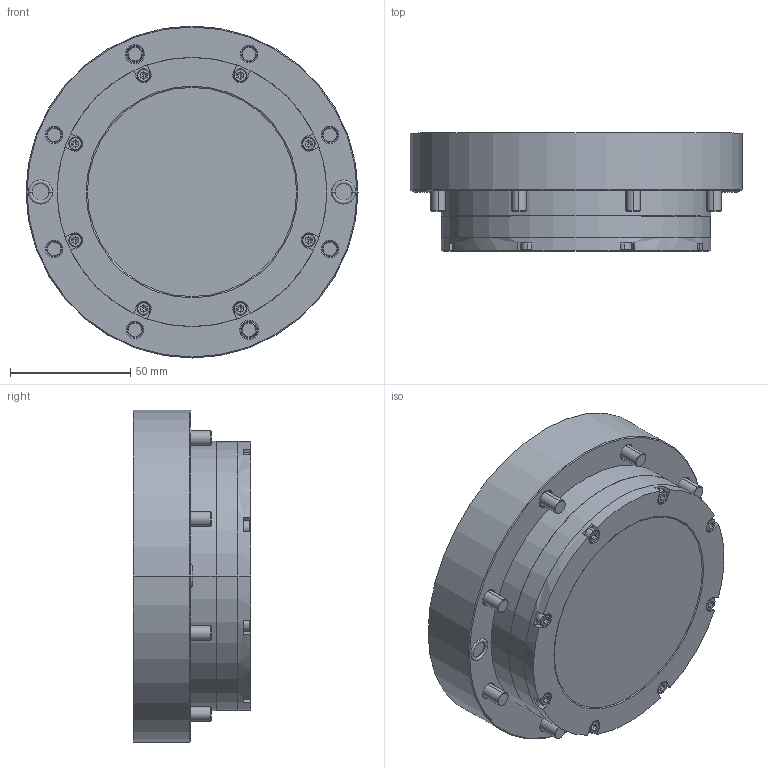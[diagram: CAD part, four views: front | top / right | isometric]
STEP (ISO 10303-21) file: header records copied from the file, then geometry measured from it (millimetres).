
FILE_DESCRIPTION((''),'2;1');
FILE_NAME('SIMP_ZERO_PNT_M138_ASM','2023-05-07T13:09:20',('Design 2'),(''),'CREO PARAMETRIC BY PTC INC, 2020053','CREO PARAMETRIC BY PTC INC, 2020053','');
FILE_SCHEMA(('CONFIG_CONTROL_DESIGN'));
Length unit declared in the file: millimetre
Products named in the file (7): 01A-HSG-ZERO_PT_CLMPG_MDL-D138_; 01B-O-RING-ID_6XCS_2-K20__; 03A-COVER-138__0; ISHCS03X08; 01C-PLASTIC-CAP-M6__; ISHCS06X25; SIMP_ZERO_PNT_M138_ASM
Assembly tree (28 placements, depth 2):
  SIMP_ZERO_PNT_M138_ASM
    01A-HSG-ZERO_PT_CLMPG_MDL-D138_
    01B-O-RING-ID_6XCS_2-K20__  x2
    03A-COVER-138__0
    ISHCS03X08  x8
    01C-PLASTIC-CAP-M6__  x8
    ISHCS06X25  x8
Bounding box: 138 x 49 x 138 mm (x, y, z)
Volume: 574965.4 mm3; surface area: 89039.1 mm2
Topology: 28 solids, 92 shells, 1124 faces, 3661 edges, 2706 vertices
Faces by surface type: plane 458, cylinder 332, cone 246, torus 72, sphere 16
Entity records: 23130 total; most frequent: CARTESIAN_POINT 5186, DIRECTION 3579, ORIENTED_EDGE 3111, EDGE_CURVE 2235, VERTEX_POINT 1876, VECTOR 1673, LINE 1673, AXIS2_PLACEMENT_3D 953
